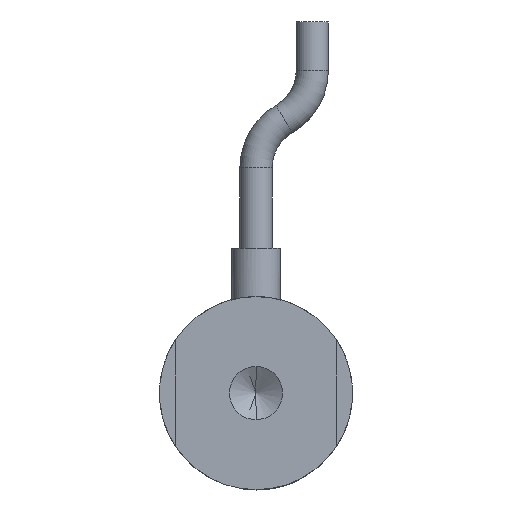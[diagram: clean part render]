
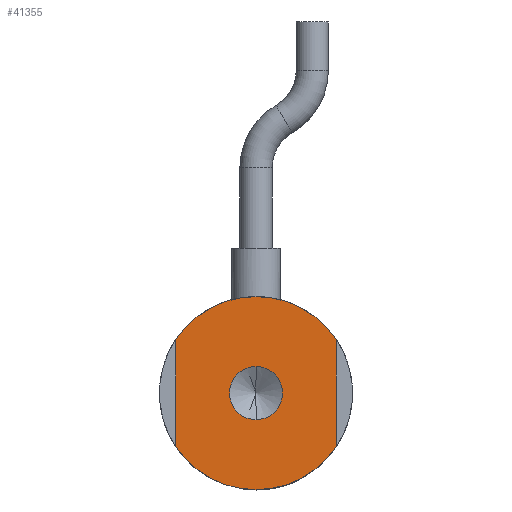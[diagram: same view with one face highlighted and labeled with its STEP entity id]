
A CAD part, front view. The second image highlights one B-rep face of the part: STEP entity #41355.
In plain terms, the highlighted planar face has unit normal (0, -1, 0).
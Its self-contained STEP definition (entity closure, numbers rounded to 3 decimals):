
#356 = VERTEX_POINT ( 'NONE', #27648 ) ;
#823 = DIRECTION ( 'NONE',  ( 0., 0., 1. ) ) ;
#872 = DIRECTION ( 'NONE',  ( 0., 1., 0. ) ) ;
#925 = CARTESIAN_POINT ( 'NONE',  ( 0., 0., 0. ) ) ;
#1462 = DIRECTION ( 'NONE',  ( 0., 1., 0. ) ) ;
#1531 = VERTEX_POINT ( 'NONE', #5668 ) ;
#2242 = LINE ( 'NONE', #11167, #22002 ) ;
#2795 = DIRECTION ( 'NONE',  ( 0., 0., 1. ) ) ;
#2996 = DIRECTION ( 'NONE',  ( 0., 0., -1. ) ) ;
#3687 = EDGE_CURVE ( 'NONE', #356, #1531, #17928, .T. ) ;
#4628 = EDGE_CURVE ( 'NONE', #25720, #356, #15045, .T. ) ;
#5668 = CARTESIAN_POINT ( 'NONE',  ( 5., 0., 3.317 ) ) ;
#6229 = EDGE_LOOP ( 'NONE', ( #18513, #19333, #22948, #23833, #25409, #25944 ) ) ;
#6238 = CARTESIAN_POINT ( 'NONE',  ( 5., 0., -3.317 ) ) ;
#6628 = CIRCLE ( 'NONE', #41452, 6. ) ;
#7769 = CARTESIAN_POINT ( 'NONE',  ( 0., 0., -1.65 ) ) ;
#11167 = CARTESIAN_POINT ( 'NONE',  ( -5., 0., 0. ) ) ;
#12788 = VERTEX_POINT ( 'NONE', #33337 ) ;
#13041 = EDGE_CURVE ( 'NONE', #33742, #12788, #6628, .T. ) ;
#13582 = DIRECTION ( 'NONE',  ( 0., -1., 0. ) ) ;
#14678 = DIRECTION ( 'NONE',  ( 0., 0., 1. ) ) ;
#15045 = CIRCLE ( 'NONE', #16671, 6. ) ;
#15149 = DIRECTION ( 'NONE',  ( 0., 0., -1. ) ) ;
#15529 = CARTESIAN_POINT ( 'NONE',  ( -5., 0., -3.317 ) ) ;
#15913 = VERTEX_POINT ( 'NONE', #15529 ) ;
#15946 = ORIENTED_EDGE ( 'NONE', *, *, #42442, .F. ) ;
#16432 = ORIENTED_EDGE ( 'NONE', *, *, #41708, .F. ) ;
#16671 = AXIS2_PLACEMENT_3D ( 'NONE', #39755, #39639, #39454 ) ;
#16906 = CARTESIAN_POINT ( 'NONE',  ( 0., 0., 0. ) ) ;
#17928 = CIRCLE ( 'NONE', #21219, 6. ) ;
#18513 = ORIENTED_EDGE ( 'NONE', *, *, #39221, .F. ) ;
#18883 = AXIS2_PLACEMENT_3D ( 'NONE', #16906, #23691, #2795 ) ;
#19333 = ORIENTED_EDGE ( 'NONE', *, *, #43138, .F. ) ;
#19467 = AXIS2_PLACEMENT_3D ( 'NONE', #43738, #23875, #2996 ) ;
#19762 = CARTESIAN_POINT ( 'NONE',  ( 0., 0., 0. ) ) ;
#20320 = PLANE ( 'NONE',  #18883 ) ;
#21219 = AXIS2_PLACEMENT_3D ( 'NONE', #925, #872, #823 ) ;
#21826 = CARTESIAN_POINT ( 'NONE',  ( 5., 0., 0. ) ) ;
#22002 = VECTOR ( 'NONE', #14678, 1000. ) ;
#22483 = CARTESIAN_POINT ( 'NONE',  ( 0., 0., 0. ) ) ;
#22948 = ORIENTED_EDGE ( 'NONE', *, *, #13041, .F. ) ;
#23135 = DIRECTION ( 'NONE',  ( 0., 0., 1. ) ) ;
#23691 = DIRECTION ( 'NONE',  ( 0., 1., 0. ) ) ;
#23833 = ORIENTED_EDGE ( 'NONE', *, *, #33111, .F. ) ;
#23875 = DIRECTION ( 'NONE',  ( 0., -1., 0. ) ) ;
#25011 = CIRCLE ( 'NONE', #25385, 6. ) ;
#25385 = AXIS2_PLACEMENT_3D ( 'NONE', #22483, #1462, #25809 ) ;
#25409 = ORIENTED_EDGE ( 'NONE', *, *, #3687, .F. ) ;
#25720 = VERTEX_POINT ( 'NONE', #40739 ) ;
#25809 = DIRECTION ( 'NONE',  ( 0., 0., 1. ) ) ;
#25944 = ORIENTED_EDGE ( 'NONE', *, *, #4628, .F. ) ;
#26090 = CIRCLE ( 'NONE', #36731, 1.65 ) ;
#27648 = CARTESIAN_POINT ( 'NONE',  ( 0., 0., 6. ) ) ;
#28217 = CARTESIAN_POINT ( 'NONE',  ( 0., 0., 1.65 ) ) ;
#29219 = FACE_OUTER_BOUND ( 'NONE', #6229, .T. ) ;
#29424 = LINE ( 'NONE', #21826, #40314 ) ;
#30260 = FACE_BOUND ( 'NONE', #35821, .T. ) ;
#31948 = VERTEX_POINT ( 'NONE', #28217 ) ;
#33111 = EDGE_CURVE ( 'NONE', #1531, #33742, #29424, .T. ) ;
#33337 = CARTESIAN_POINT ( 'NONE',  ( 0., 0., -6. ) ) ;
#33623 = CARTESIAN_POINT ( 'NONE',  ( 0., 0., 0. ) ) ;
#33742 = VERTEX_POINT ( 'NONE', #6238 ) ;
#35821 = EDGE_LOOP ( 'NONE', ( #15946, #16432 ) ) ;
#36731 = AXIS2_PLACEMENT_3D ( 'NONE', #33623, #13582, #36974 ) ;
#36974 = DIRECTION ( 'NONE',  ( 0., 0., -1. ) ) ;
#39221 = EDGE_CURVE ( 'NONE', #15913, #25720, #2242, .T. ) ;
#39454 = DIRECTION ( 'NONE',  ( 0., 0., 1. ) ) ;
#39639 = DIRECTION ( 'NONE',  ( 0., 1., 0. ) ) ;
#39755 = CARTESIAN_POINT ( 'NONE',  ( 0., 0., 0. ) ) ;
#40314 = VECTOR ( 'NONE', #15149, 1000. ) ;
#40739 = CARTESIAN_POINT ( 'NONE',  ( -5., 0., 3.317 ) ) ;
#41355 = ADVANCED_FACE ( 'NONE', ( #30260, #29219 ), #20320, .F. ) ;
#41452 = AXIS2_PLACEMENT_3D ( 'NONE', #19762, #42978, #23135 ) ;
#41708 = EDGE_CURVE ( 'NONE', #31948, #42679, #26090, .T. ) ;
#42442 = EDGE_CURVE ( 'NONE', #42679, #31948, #43168, .T. ) ;
#42679 = VERTEX_POINT ( 'NONE', #7769 ) ;
#42978 = DIRECTION ( 'NONE',  ( 0., 1., 0. ) ) ;
#43138 = EDGE_CURVE ( 'NONE', #12788, #15913, #25011, .T. ) ;
#43168 = CIRCLE ( 'NONE', #19467, 1.65 ) ;
#43738 = CARTESIAN_POINT ( 'NONE',  ( 0., 0., 0. ) ) ;
